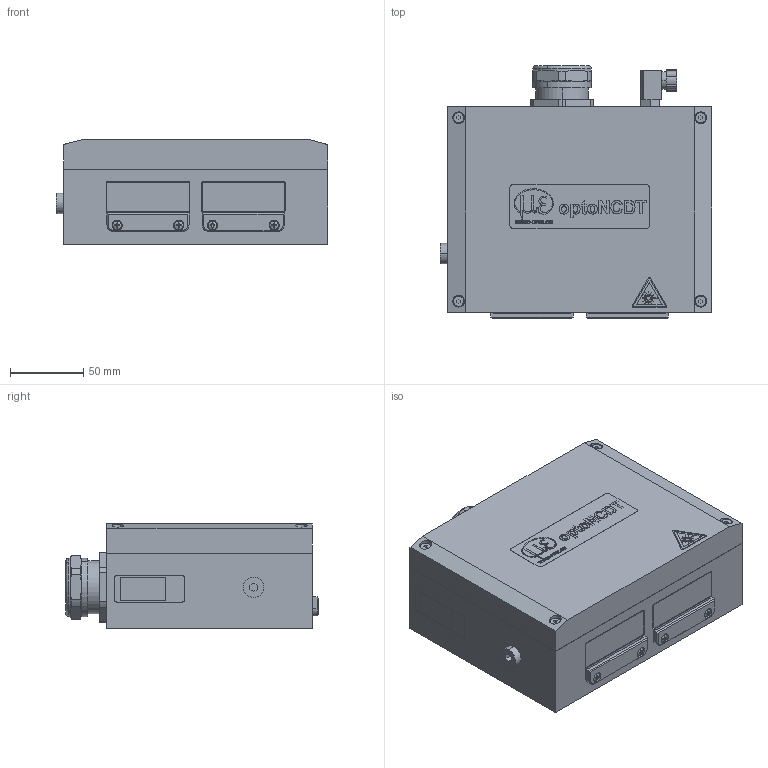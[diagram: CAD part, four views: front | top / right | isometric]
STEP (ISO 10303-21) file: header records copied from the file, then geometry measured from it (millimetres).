
FILE_DESCRIPTION (( 'STEP AP203' ), '1' );
FILE_NAME ('2105045 SGHF ILD, Groesse M.STEP', '2013-02-05T12:43:51', ( 'Smy' ), ( 'Hewlett-Packard Company' ), 'SwSTEP 2.0', 'SolidWorks 2012', '' );
FILE_SCHEMA (( 'CONFIG_CONTROL_DESIGN' ));
Products named in the file (1): 2105045  SGHF ILD, Groesse M
Bounding box: 185 x 172 x 71.45 mm (x, y, z)
Volume: 498532.3 mm3; surface area: 253665.6 mm2
Topology: 1 solids, 2 shells, 1091 faces, 2793 edges, 1826 vertices
Faces by surface type: plane 588, bspline 228, cylinder 201, cone 46, torus 20, sphere 8
Entity records: 42900 total; most frequent: CARTESIAN_POINT 17391, ORIENTED_EDGE 5586, DIRECTION 4571, EDGE_CURVE 2793, VERTEX_POINT 1826, LINE 1751, VECTOR 1751, AXIS2_PLACEMENT_3D 1410
